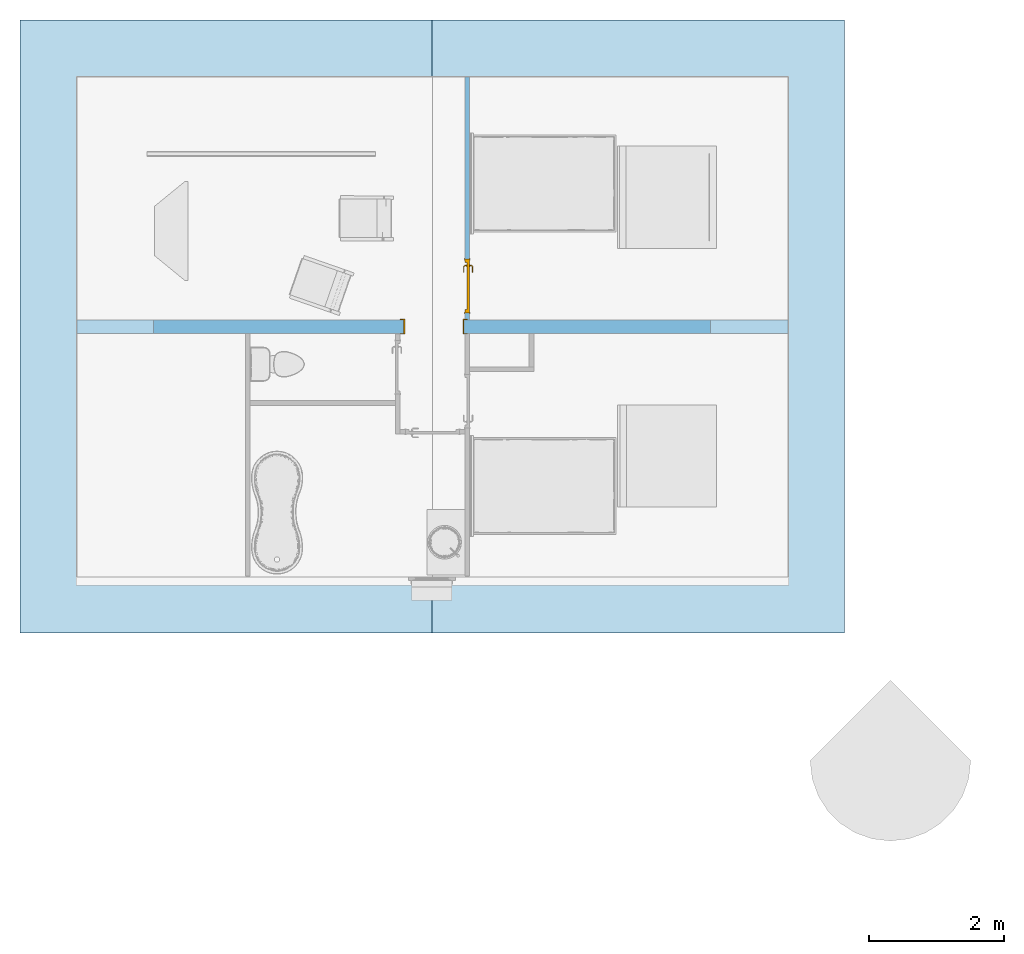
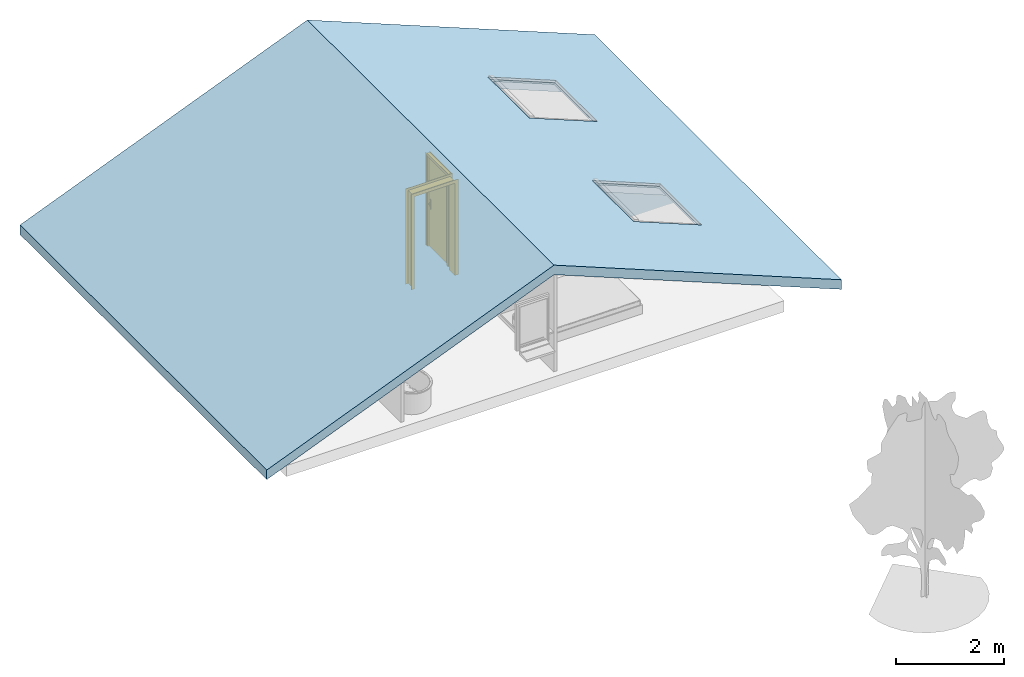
# One storey, part 3 of 6: 2 doors, 1 roof, 2 openings, plus 2 elements that do not belong to this part.
"""IFC2X3 building model written with IfcOpenShell, lengths in metres."""

from ifc_helpers import new_model, entity, si_unit, converted_unit, derived_unit, direction, frame, frame_2d, origin, place, context, subcontext, project, spatial, polyline, rectangle, extrude, clip, bounded_halfspace, faceted_brep, source, transform, mapped, material, material_list, layer, layer_set, layer_usage, type_object, type_shapes, element, fill, save


model = new_model("IFC2X3")

# Units and contexts
model_context = context("Model", 3, precision=1e-05, world=origin(), true_north=direction((6.12303176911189e-17, 1.0)))
body_context = subcontext(model_context, "Body", "Model", "MODEL_VIEW")
ifc_project = project(units=[si_unit("LENGTHUNIT", "METRE"), si_unit("AREAUNIT", "SQUARE_METRE"), si_unit("VOLUMEUNIT", "CUBIC_METRE"), converted_unit("PLANEANGLEUNIT", "DEGREE", entity("IfcRatioMeasure", 0.0174532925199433), si_unit("PLANEANGLEUNIT", "RADIAN"), dimensions=[0, 0, 0, 0, 0, 0, 0]), si_unit("MASSUNIT", "GRAM", prefix="KILO"), derived_unit("MASSDENSITYUNIT", [(si_unit("MASSUNIT", "GRAM", prefix="KILO"), 1), (si_unit("LENGTHUNIT", "METRE"), -3)]), derived_unit("MOMENTOFINERTIAUNIT", [(si_unit("LENGTHUNIT", "METRE"), 4)]), si_unit("TIMEUNIT", "SECOND"), si_unit("FREQUENCYUNIT", "HERTZ"), si_unit("THERMODYNAMICTEMPERATUREUNIT", "DEGREE_CELSIUS"), derived_unit("THERMALTRANSMITTANCEUNIT", [(si_unit("MASSUNIT", "GRAM", prefix="KILO"), 1), (si_unit("THERMODYNAMICTEMPERATUREUNIT", "KELVIN"), -1), (si_unit("TIMEUNIT", "SECOND"), -3)]), derived_unit("VOLUMETRICFLOWRATEUNIT", [(si_unit("LENGTHUNIT", "METRE"), 3), (si_unit("TIMEUNIT", "SECOND"), -1)]), si_unit("ELECTRICCURRENTUNIT", "AMPERE"), si_unit("ELECTRICVOLTAGEUNIT", "VOLT"), si_unit("POWERUNIT", "WATT"), si_unit("FORCEUNIT", "NEWTON", prefix="KILO"), si_unit("ILLUMINANCEUNIT", "LUX"), si_unit("LUMINOUSFLUXUNIT", "LUMEN"), si_unit("LUMINOUSINTENSITYUNIT", "CANDELA"), derived_unit("USERDEFINED", [(si_unit("MASSUNIT", "GRAM", prefix="KILO"), -1), (si_unit("LENGTHUNIT", "METRE"), -2), (si_unit("TIMEUNIT", "SECOND"), 3), (si_unit("LUMINOUSFLUXUNIT", "LUMEN"), 1)]), derived_unit("LINEARVELOCITYUNIT", [(si_unit("LENGTHUNIT", "METRE"), 1), (si_unit("TIMEUNIT", "SECOND"), -1)]), si_unit("PRESSUREUNIT", "PASCAL"), derived_unit("USERDEFINED", [(si_unit("LENGTHUNIT", "METRE"), -2), (si_unit("MASSUNIT", "GRAM", prefix="KILO"), 1), (si_unit("TIMEUNIT", "SECOND"), -2)]), derived_unit("LINEARFORCEUNIT", [(si_unit("MASSUNIT", "GRAM", prefix="KILO"), 1), (si_unit("LENGTHUNIT", "METRE"), 1), (si_unit("TIMEUNIT", "SECOND"), -2), (si_unit("LENGTHUNIT", "METRE"), -1)]), derived_unit("PLANARFORCEUNIT", [(si_unit("MASSUNIT", "GRAM", prefix="KILO"), 1), (si_unit("LENGTHUNIT", "METRE"), 1), (si_unit("TIMEUNIT", "SECOND"), -2), (si_unit("LENGTHUNIT", "METRE"), -2)])], contexts=[model_context])

# Site, building, storey
site_placement = place(None, origin())
site = spatial("IfcSite", under=ifc_project, at=site_placement, Name="Surface", CompositionType="ELEMENT")
building_placement = place(site_placement, origin())
building = spatial("IfcBuilding", under=site, at=building_placement, CompositionType="ELEMENT")
storey_placement = place(building_placement, frame((0.0, 0.0, 5.6)))
storey = spatial("IfcBuildingStorey", under=building, at=storey_placement, Name="Niveau comble", CompositionType="ELEMENT", Elevation=5.6)

# Wall, opening, door
ifc_material_1 = material(Name="Blocs béton manufacturés")
ifc_layer_1 = layer(ifc_material_1, 0.2)
ifc_layer_set_1 = layer_set([ifc_layer_1], Name="Mur de base:Parpaing 20")
ifc_layer_usage_1 = layer_usage(ifc_layer_set_1, "AXIS2", "NEGATIVE", 0.1)
wall_type_1 = type_object("IfcWallType", Name="Mur de base:Parpaing 20", PredefinedType="STANDARD", material=ifc_layer_set_1)
wall_1_placement = place(storey_placement, frame((12.4543960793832, 3.29925810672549, 0.0), z_axis=(0.0, 0.0, 1.0), x_axis=(-1.0, 0.0, 0.0)))
wall_1 = element("IfcWallStandardCase", 1, at=wall_1_placement, inside=storey, type_object=wall_type_1, material=ifc_layer_usage_1, Name="Mur de base:Parpaing 20", ObjectType="Mur de base:Parpaing 20", context=body_context, shape_type="Clipping", body=[
    clip(clip(extrude(rectangle(XDim=10.57, YDim=0.2, at=frame_2d((5.285, 1.38777878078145e-16), x_axis=(-1.0, 0.0))), origin(), (0.0, 0.0, 1.0), 2.8737205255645), bounded_halfspace(frame((0.0, -0.1, 0.736421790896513), z_axis=(-0.374606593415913, 0.0, 0.927183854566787), x_axis=(0.0, -1.0, 0.0)), False, frame((0.0, -0.1, 0.736421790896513)), polyline([(0.0, 0.0), (4.73500000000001, 0.0), (4.80500000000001, 0.0), (5.28999999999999, 0.0), (5.28999999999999, 0.199999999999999), (4.80629475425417, 0.200000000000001), (4.73629475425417, 0.200000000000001), (3.85, 0.2), (3.78, 0.200000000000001), (0.0, 0.2), (0.0, 0.0)]))), bounded_halfspace(frame((5.28999999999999, -0.0999999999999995, 2.8737205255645), z_axis=(0.374606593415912, 0.0, 0.927183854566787), x_axis=(0.0, 1.0, 0.0)), False, frame((5.28999999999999, -0.0999999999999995, 2.8737205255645)), polyline([(0.0, 0.0), (5.28000000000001, 0.0), (5.28000000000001, 0.2), (2.77500000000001, 0.199999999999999), (2.70500000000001, 0.199999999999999), (0.0, 0.2), (0.0, 0.0)]))),
])
opening_1_placement = place(wall_1_placement, frame((4.81499999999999, -0.0999999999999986, 0.0)))
opening_1 = element("IfcOpeningElement", 2, at=opening_1_placement, cuts=wall_1, Name="Ouverture en rectangle:Ouverture en rectangle:1", ObjectType="Opening", context=body_context, shape_type="SweptSolid", body=[
    extrude(rectangle(XDim=2.09999999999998, YDim=0.9, at=frame_2d((1.04999999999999, 0.45), x_axis=(1.0, 0.0))), frame((0.0, 0.0, 0.0), z_axis=(0.0, 1.0, 0.0), x_axis=(0.0, 0.0, 1.0)), (0.0, 0.0, 1.0), 0.2),
])
ifc_material_2 = material(Name="Bois - Chêne")
door_style_1 = type_object("IfcDoorStyle", Name="Ouverture en rectangle:Ouverture en rectangle", ConstructionType="NOTDEFINED", OperationType="NOTDEFINED", ParameterTakesPrecedence=False, Sizeable=False, material=ifc_material_2)
shared_shape_1 = source(origin(), body_context, "Body", "Brep", [
    faceted_brep([(0.0, 0.0, 0.0), (0.0, 0.20000000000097, 0.0), (-0.0499999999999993, 0.20000000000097, 0.0), (-0.0499999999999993, 0.21000000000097, 0.0), (0.0200000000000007, 0.21000000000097, 0.0), (0.0200000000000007, -0.00999999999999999, 0.0), (-0.0499999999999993, -0.00999999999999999, 0.0), (-0.0499999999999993, 0.0, 0.0), (0.0, 0.0, 2.09999999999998), (0.0, 0.20000000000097, 2.09999999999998), (0.9, 0.20000000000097, 2.09999999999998), (0.9, 0.20000000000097, 0.0), (0.95, 0.20000000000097, 0.0), (0.95, 0.20000000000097, 2.14999999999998), (-0.0499999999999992, 0.20000000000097, 2.14999999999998), (-0.0499999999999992, 0.21000000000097, 2.14999999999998), (0.95, 0.21000000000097, 2.14999999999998), (0.95, 0.21000000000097, 0.0), (0.88, 0.21000000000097, 0.0), (0.88, 0.21000000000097, 2.07999999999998), (0.0200000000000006, 0.21000000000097, 2.07999999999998), (0.0200000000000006, -0.00999999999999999, 2.07999999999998), (0.88, -0.00999999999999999, 2.07999999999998), (0.88, -0.00999999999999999, 0.0), (0.95, -0.00999999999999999, 0.0), (0.95, -0.00999999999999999, 2.14999999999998), (-0.0499999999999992, -0.00999999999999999, 2.14999999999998), (-0.0499999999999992, 0.0, 2.14999999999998), (0.95, 0.0, 2.14999999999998), (0.95, 0.0, 0.0), (0.9, 0.0, 0.0), (0.9, 0.0, 2.09999999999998)], [[[0, 1, 2, 3, 4, 5, 6, 7]], [[1, 0, 8, 9]], [[2, 1, 9, 10, 11, 12, 13, 14]], [[3, 2, 14, 15]], [[4, 3, 15, 16, 17, 18, 19, 20]], [[5, 4, 20, 21]], [[6, 5, 21, 22, 23, 24, 25, 26]], [[7, 6, 26, 27]], [[0, 7, 27, 28, 29, 30, 31, 8]], [[10, 31, 30, 11]], [[30, 29, 24, 23, 18, 17, 12, 11]], [[16, 13, 12, 17]], [[22, 19, 18, 23]], [[28, 25, 24, 29]], [[9, 8, 31, 10]], [[15, 14, 13, 16]], [[21, 20, 19, 22]], [[27, 26, 25, 28]]]),
])
type_shapes(door_style_1, [shared_shape_1])
door_1_placement = place(opening_1_placement, origin())
door_1 = element("IfcDoor", 3, at=door_1_placement, inside=storey, type_object=door_style_1, material=ifc_material_2, Name="Ouverture en rectangle:Ouverture en rectangle", ObjectType="Ouverture en rectangle:Ouverture en rectangle", OverallHeight=2.09999999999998, OverallWidth=0.900000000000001, context=body_context, shape_type="MappedRepresentation", body=[
    mapped(shared_shape_1, transform((0.0, 0.0, 0.0), scale=1.0)),
])
fill(opening_1, door_1)

ifc_material_3 = material(Name="Mur par défaut")
ifc_layer_2 = layer(ifc_material_3, 0.07)
ifc_layer_set_2 = layer_set([ifc_layer_2], Name="Mur de base:Générique - Int. 70 mm")
ifc_layer_usage_2 = layer_usage(ifc_layer_set_2, "AXIS2", "NEGATIVE", 0.035)
wall_type_2 = type_object("IfcWallType", Name="Mur de base:Générique - Int. 70 mm", PredefinedType="STANDARD", material=ifc_layer_set_2)
wall_2_placement = place(storey_placement, frame((7.6843960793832, 3.39925810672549, 0.0), z_axis=(0.0, 0.0, 1.0), x_axis=(0.0, 1.0, 0.0)))
wall_2 = element("IfcWallStandardCase", 4, at=wall_2_placement, inside=storey, type_object=wall_type_2, material=ifc_layer_usage_2, Name="Mur de base:Générique - Int. 70 mm", ObjectType="Mur de base:Générique - Int. 70 mm", context=body_context, shape_type="Clipping", body=[
    clip(extrude(rectangle(XDim=3.61, YDim=0.0699999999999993, at=frame_2d((1.805, -2.42861286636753e-17), x_axis=(-1.0, 0.0))), origin(), (0.0, 0.0, 1.0), 2.67776780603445), bounded_halfspace(frame((0.0, -0.0350000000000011, 2.64948597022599), z_axis=(0.0, -0.374606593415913, 0.927183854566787), x_axis=(1.0, 0.0, 0.0)), False, frame((0.0, -0.0350000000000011, 2.64948597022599)), polyline([(0.0, 0.0), (3.61, 0.0), (3.61, 0.0700000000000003), (0.0, 0.0700000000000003), (0.0, 0.0)]))),
])
opening_2_placement = place(wall_2_placement, frame((0.899999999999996, 0.0349999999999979, 0.0)))
opening_2 = element("IfcOpeningElement", 5, at=opening_2_placement, cuts=wall_2, Name="Int. Simple:PP (0.73m x 2.04m):1", ObjectType="Opening", context=body_context, shape_type="SweptSolid", body=[
    extrude(rectangle(XDim=2.075, YDim=0.799999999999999, at=frame_2d((1.0375, 0.4), x_axis=(1.0, 0.0))), frame((0.0, 0.0, 0.0), z_axis=(0.0, -1.0, 0.0), x_axis=(0.0, 0.0, 1.0)), (0.0, 0.0, 1.0), 0.07),
])
ifc_material_4 = material(Name="Finition Peinture - Blanc satiné")
ifc_material_5 = material(Name="Bois - Panneau de porte")
ifc_material_6 = material(Name="Bois - Cadre de porte")
ifc_material_list_1 = material_list([ifc_material_4, ifc_material_5, ifc_material_6])
ifc_material_list_2 = material_list([ifc_material_5, ifc_material_4, ifc_material_6])
door_style_2 = type_object("IfcDoorStyle", Name="Int. Simple:PP (0.73m x 2.04m)", ConstructionType="NOTDEFINED", OperationType="NOTDEFINED", ParameterTakesPrecedence=False, Sizeable=False, material=ifc_material_list_2)
shared_shape_2 = source(origin(), body_context, "Body", "Brep", [
    faceted_brep([(0.795000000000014, -0.00500000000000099, 0.870000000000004), (0.795000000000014, -0.00500000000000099, 1.08), (0.785352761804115, -0.00500000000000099, 1.08399601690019), (0.775000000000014, -0.00500000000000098, 1.08535898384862), (0.764647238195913, -0.00500000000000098, 1.08399601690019), (0.755000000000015, -0.00500000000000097, 1.08), (0.755000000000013, -0.00500000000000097, 0.870000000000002), (0.764647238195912, -0.00500000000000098, 0.866003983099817), (0.775000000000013, -0.00500000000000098, 0.86464101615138), (0.785352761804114, -0.00500000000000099, 0.866003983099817), (0.795000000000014, 0.0, 1.08), (0.795000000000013, 0.0, 0.870000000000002), (0.785352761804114, 0.0, 0.866003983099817), (0.775000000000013, 0.0, 0.86464101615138), (0.764647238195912, 0.0, 0.866003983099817), (0.755000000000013, 0.0, 0.870000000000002), (0.755000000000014, 0.0, 1.08), (0.764647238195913, 0.0, 1.08399601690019), (0.775000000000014, 0.0, 1.08535898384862), (0.785352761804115, 0.0, 1.08399601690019)], [[[0, 1, 2, 3, 4, 5, 6, 7, 8, 9]], [[10, 11, 12, 13, 14, 15, 16, 17, 18, 19]], [[9, 12, 11, 0]], [[8, 13, 12, 9]], [[7, 14, 13, 8]], [[7, 6, 15, 14]], [[15, 6, 5, 16]], [[4, 17, 16, 5]], [[3, 18, 17, 4]], [[2, 19, 18, 3]], [[2, 1, 10, 19]], [[11, 10, 1, 0]]]),
    faceted_brep([(0.795000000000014, 0.039999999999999, 0.870000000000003), (0.795000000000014, 0.039999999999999, 1.08), (0.785352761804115, 0.039999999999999, 1.08399601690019), (0.775000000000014, 0.039999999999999, 1.08535898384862), (0.764647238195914, 0.039999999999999, 1.08399601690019), (0.755000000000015, 0.039999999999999, 1.08), (0.755000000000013, 0.039999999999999, 0.870000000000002), (0.764647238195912, 0.039999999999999, 0.866003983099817), (0.775000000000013, 0.039999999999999, 0.86464101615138), (0.785352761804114, 0.039999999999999, 0.866003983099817), (0.775000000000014, 0.044999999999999, 1.08535898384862), (0.785352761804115, 0.044999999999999, 1.08399601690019), (0.795000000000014, 0.044999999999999, 1.08), (0.795000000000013, 0.044999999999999, 0.870000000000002), (0.785352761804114, 0.044999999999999, 0.866003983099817), (0.775000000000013, 0.044999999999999, 0.86464101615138), (0.764647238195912, 0.044999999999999, 0.866003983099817), (0.755000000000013, 0.044999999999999, 0.870000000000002), (0.755000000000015, 0.044999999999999, 1.08), (0.764647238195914, 0.044999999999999, 1.08399601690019)], [[[0, 1, 2, 3, 4, 5, 6, 7, 8, 9]], [[10, 11, 12, 13, 14, 15, 16, 17, 18, 19]], [[4, 19, 18, 5]], [[3, 10, 19, 4]], [[2, 11, 10, 3]], [[2, 1, 12, 11]], [[13, 12, 1, 0]], [[9, 14, 13, 0]], [[8, 15, 14, 9]], [[7, 16, 15, 8]], [[7, 6, 17, 16]], [[17, 6, 5, 18]]]),
    faceted_brep([(0.772974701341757, -0.00500000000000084, 1.00778044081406), (0.777025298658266, -0.00500000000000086, 1.00778044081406), (0.781000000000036, -0.00500000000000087, 1.00699999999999), (0.781000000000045, -0.00500000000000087, 0.992999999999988), (0.777025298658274, -0.00500000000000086, 0.99221955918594), (0.772974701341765, -0.00500000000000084, 0.992219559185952), (0.768999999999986, -0.00500000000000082, 0.993000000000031), (0.768999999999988, -0.00500000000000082, 1.007), (0.777025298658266, -0.0310045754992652, 1.00778044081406), (0.781000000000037, -0.0326509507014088, 1.007), (0.772974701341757, -0.0293267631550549, 1.00778044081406), (0.759298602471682, -0.0430028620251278, 1.00778044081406), (0.760976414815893, -0.047053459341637, 1.00778044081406), (0.768999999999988, -0.0276803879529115, 1.007), (0.768999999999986, -0.0276803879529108, 0.993000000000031), (0.772974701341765, -0.0293267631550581, 0.992219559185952), (0.777025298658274, -0.0310045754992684, 0.99221955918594), (0.760976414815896, -0.0470534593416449, 0.99221955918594), (0.759298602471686, -0.0430028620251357, 0.992219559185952), (0.781000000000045, -0.0326509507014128, 0.992999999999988), (0.762622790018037, -0.051028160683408, 1.007), (0.757652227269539, -0.0390281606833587, 1.007), (0.757652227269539, -0.0390281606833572, 0.993000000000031), (0.76262279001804, -0.0510281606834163, 0.992999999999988), (0.674981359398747, -0.0510281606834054, 1.007), (0.674981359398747, -0.0470534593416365, 1.00778044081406), (0.674981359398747, -0.0430028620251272, 1.00778044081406), (0.674981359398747, -0.0390281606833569, 1.00699999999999), (0.674981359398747, -0.0390281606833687, 0.993000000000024), (0.674981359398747, -0.0430028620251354, 0.992219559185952), (0.674981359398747, -0.0470534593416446, 0.99221955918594), (0.674981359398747, -0.0510281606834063, 0.992999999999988), (0.71713998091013, -0.0450281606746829, 1.0078786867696), (0.722692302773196, -0.0510281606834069, 1.007), (0.716316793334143, -0.0390281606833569, 1.007), (0.716316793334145, -0.0390281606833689, 0.993000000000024), (0.717139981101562, -0.0450281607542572, 0.992121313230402), (0.722692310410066, -0.0510281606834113, 0.992999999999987)], [[[0, 1, 2, 3, 4, 5, 6, 7]], [[2, 1, 8, 9]], [[1, 0, 10, 11, 12, 8]], [[0, 7, 13, 10]], [[14, 13, 7, 6]], [[5, 15, 14, 6]], [[5, 4, 16, 17, 18, 15]], [[3, 19, 16, 4]], [[9, 19, 3, 2]], [[9, 8, 12, 20]], [[10, 13, 21, 11]], [[22, 21, 13, 14]], [[14, 15, 18, 22]], [[16, 19, 23, 17]], [[20, 23, 19, 9]], [[24, 25, 26, 27, 28, 29, 30, 31]], [[32, 25, 33]], [[33, 25, 24]], [[33, 20, 12]], [[11, 34, 32]], [[34, 11, 21]], [[27, 26, 34]], [[32, 26, 25]], [[32, 34, 26]], [[32, 33, 12]], [[11, 32, 12]], [[21, 22, 35, 28, 27, 34]], [[36, 29, 35]], [[30, 36, 37]], [[18, 35, 22]], [[29, 28, 35]], [[30, 37, 31]], [[37, 17, 23]], [[36, 17, 37]], [[36, 18, 17]], [[36, 35, 18]], [[29, 36, 30]], [[23, 20, 33, 24, 31, 37]]]),
    faceted_brep([(0.772974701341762, 0.0449999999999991, 0.992219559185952), (0.777025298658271, 0.0449999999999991, 0.99221955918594), (0.781000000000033, 0.0449999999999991, 0.992999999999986), (0.781000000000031, 0.0449999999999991, 1.007), (0.777025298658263, 0.0449999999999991, 1.00778044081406), (0.772974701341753, 0.0449999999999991, 1.00778044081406), (0.768999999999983, 0.0449999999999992, 1.007), (0.768999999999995, 0.0449999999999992, 0.993000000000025), (0.768999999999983, 0.0674852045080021, 1.007), (0.768999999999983, 0.0674852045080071, 0.993000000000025), (0.772974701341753, 0.0691315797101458, 1.00778044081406), (0.777025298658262, 0.070809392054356, 1.00778044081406), (0.760838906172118, 0.0869957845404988, 1.00778044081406), (0.759161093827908, 0.0829451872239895, 1.00778044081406), (0.781000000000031, 0.0724557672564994, 1.007), (0.781000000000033, 0.0724557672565, 0.992999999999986), (0.777025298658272, 0.0708093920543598, 0.99221955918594), (0.772974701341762, 0.0691315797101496, 0.992219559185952), (0.759161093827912, 0.0829451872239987, 0.992219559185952), (0.760838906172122, 0.0869957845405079, 0.99221955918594), (0.757514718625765, 0.0789704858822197, 1.007), (0.757514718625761, 0.0789704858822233, 0.993000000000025), (0.762485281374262, 0.0909704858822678, 1.007), (0.762485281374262, 0.0909704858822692, 0.992999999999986), (0.674954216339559, 0.0829451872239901, 1.00778044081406), (0.674954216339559, 0.0869957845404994, 1.00778044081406), (0.674954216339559, 0.0909704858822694, 1.007), (0.674954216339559, 0.0909704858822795, 0.992999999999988), (0.674954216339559, 0.0869957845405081, 0.99221955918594), (0.674954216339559, 0.0829451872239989, 0.992219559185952), (0.674954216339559, 0.07897048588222, 0.993000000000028), (0.674954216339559, 0.0789704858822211, 1.007), (0.716234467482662, 0.0789704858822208, 1.007), (0.716234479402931, 0.0789704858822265, 0.993000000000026), (0.717057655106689, 0.0849704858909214, 1.0078786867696), (0.722554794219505, 0.0909704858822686, 1.007), (0.722554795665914, 0.0909704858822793, 0.992999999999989), (0.717057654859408, 0.0849704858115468, 0.992121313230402)], [[[0, 1, 2, 3, 4, 5, 6, 7]], [[8, 9, 7, 6]], [[5, 10, 8, 6]], [[5, 4, 11, 12, 13, 10]], [[3, 14, 11, 4]], [[14, 3, 2, 15]], [[2, 1, 16, 15]], [[1, 0, 17, 18, 19, 16]], [[0, 7, 9, 17]], [[20, 21, 9, 8]], [[8, 10, 13, 20]], [[14, 22, 12, 11]], [[23, 22, 14, 15]], [[15, 16, 19, 23]], [[17, 9, 21, 18]], [[24, 25, 26, 27, 28, 29, 30, 31]], [[21, 20, 32, 31, 30, 33]], [[34, 24, 32]], [[25, 34, 35]], [[13, 32, 20]], [[24, 31, 32]], [[25, 35, 26]], [[35, 12, 22]], [[34, 12, 35]], [[34, 13, 12]], [[34, 32, 13]], [[24, 34, 25]], [[22, 23, 36, 27, 26, 35]], [[37, 28, 36]], [[36, 28, 27]], [[36, 23, 19]], [[18, 33, 37]], [[33, 18, 21]], [[30, 29, 33]], [[37, 29, 28]], [[37, 33, 29]], [[37, 36, 19]], [[18, 37, 19]]]),
    faceted_brep([(0.835000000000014, 0.0400000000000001, 2.04), (0.835000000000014, 0.0400000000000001, 0.0), (0.105000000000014, 0.0400000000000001, 0.0), (0.105000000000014, 0.0400000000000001, 2.04), (0.835000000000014, 0.0, 2.04), (0.105000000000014, 0.0, 2.04), (0.105000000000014, 0.0, 0.0), (0.835000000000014, 0.0, 0.0)], [[[0, 1, 2, 3]], [[4, 5, 6, 7]], [[3, 5, 4, 0]], [[2, 6, 5, 3]], [[1, 7, 6, 2]], [[0, 4, 7, 1]]]),
    faceted_brep([(0.870000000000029, 0.0, 0.0), (0.835000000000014, 0.0, 0.0), (0.835000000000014, 0.04, 0.0), (0.820000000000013, 0.04, 0.0), (0.820000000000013, 0.0699999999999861, 0.0), (0.870000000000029, 0.0699999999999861, 0.0), (0.870000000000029, 0.0699999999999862, 2.07500000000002), (0.870000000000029, 0.0, 2.07500000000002), (0.820000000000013, 0.0699999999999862, 2.025), (0.120000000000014, 0.0699999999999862, 2.025), (0.120000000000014, 0.0699999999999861, 0.0), (0.0699999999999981, 0.0699999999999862, 0.0), (0.0699999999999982, 0.0699999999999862, 2.07500000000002), (0.820000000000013, 0.04, 2.025), (0.835000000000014, 0.04, 2.04), (0.105000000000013, 0.04, 2.04), (0.105000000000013, 0.04, 0.0), (0.120000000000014, 0.04, 0.0), (0.120000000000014, 0.04, 2.025), (0.835000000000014, 0.0, 2.04), (0.0699999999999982, 0.0, 2.07500000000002), (0.0699999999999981, 0.0, 0.0), (0.105000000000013, 0.0, 0.0), (0.105000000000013, 0.0, 2.04)], [[[0, 1, 2, 3, 4, 5]], [[5, 6, 7, 0]], [[4, 8, 9, 10, 11, 12, 6, 5]], [[3, 13, 8, 4]], [[2, 14, 15, 16, 17, 18, 13, 3]], [[1, 19, 14, 2]], [[0, 7, 20, 21, 22, 23, 19, 1]], [[12, 11, 21, 20]], [[21, 11, 10, 17, 16, 22]], [[18, 17, 10, 9]], [[23, 22, 16, 15]], [[6, 12, 20, 7]], [[13, 18, 9, 8]], [[19, 23, 15, 14]]]),
    faceted_brep([(0.855000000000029, 0.0699999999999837, 0.0), (0.855000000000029, 0.0749999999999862, 0.0), (0.885000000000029, 0.0749999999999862, 0.0), (0.885000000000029, 0.0699999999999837, 0.0), (0.885000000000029, 0.0699999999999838, 2.09000000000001), (0.0550000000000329, 0.0699999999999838, 2.09000000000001), (0.055000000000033, 0.0699999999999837, 0.0), (0.0850000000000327, 0.0699999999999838, 0.0), (0.0850000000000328, 0.0699999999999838, 2.06000000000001), (0.855000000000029, 0.0699999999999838, 2.06000000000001), (0.885000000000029, 0.0749999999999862, 2.09000000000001), (0.855000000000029, 0.0749999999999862, 2.06000000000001), (0.0850000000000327, 0.0749999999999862, 2.06000000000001), (0.0850000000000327, 0.0749999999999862, 0.0), (0.055000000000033, 0.0749999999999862, 0.0), (0.0550000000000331, 0.0749999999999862, 2.09000000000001)], [[[0, 1, 2, 3]], [[3, 4, 5, 6, 7, 8, 9, 0]], [[2, 10, 4, 3]], [[1, 11, 12, 13, 14, 15, 10, 2]], [[0, 9, 11, 1]], [[7, 6, 14, 13]], [[8, 7, 13, 12]], [[15, 14, 6, 5]], [[10, 15, 5, 4]], [[9, 8, 12, 11]]]),
    faceted_brep([(0.885000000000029, -0.005, 0.0), (0.885000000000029, -0.005, 2.09000000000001), (0.0550000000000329, -0.005, 2.09000000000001), (0.055000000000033, -0.005, 0.0), (0.0850000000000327, -0.005, 0.0), (0.0850000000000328, -0.005, 2.06000000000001), (0.855000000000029, -0.005, 2.06000000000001), (0.855000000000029, -0.005, 0.0), (0.885000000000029, 0.0, 0.0), (0.885000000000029, 0.0, 2.09000000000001), (0.855000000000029, 0.0, 0.0), (0.855000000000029, 0.0, 2.06000000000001), (0.0850000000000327, 0.0, 2.06000000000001), (0.0850000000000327, 0.0, 0.0), (0.055000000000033, 0.0, 0.0), (0.0550000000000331, 0.0, 2.09000000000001)], [[[0, 1, 2, 3, 4, 5, 6, 7]], [[8, 9, 1, 0]], [[10, 11, 12, 13, 14, 15, 9, 8]], [[7, 6, 11, 10]], [[5, 4, 13, 12]], [[15, 14, 3, 2]], [[9, 15, 2, 1]], [[6, 5, 12, 11]], [[4, 3, 14, 13]], [[7, 10, 8, 0]]]),
])
type_shapes(door_style_2, [shared_shape_2])
door_2_placement = place(opening_2_placement, frame((-0.870000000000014, -0.0699999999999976, 0.0)))
door_2 = element("IfcDoor", 6, at=door_2_placement, inside=storey, type_object=door_style_2, material=ifc_material_list_1, Name="Int. Simple:PP (0.73m x 2.04m)", ObjectType="Int. Simple:PP (0.73m x 2.04m)", OverallHeight=2.075, OverallWidth=0.799999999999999, context=body_context, shape_type="MappedRepresentation", body=[
    mapped(shared_shape_2, transform((0.0, 0.0, 0.0), scale=1.0)),
])
fill(opening_2, door_2)

# Roof
ifc_material_7 = material(Name="Toit par défaut")
ifc_layer_3 = layer(ifc_material_7, 0.2)
ifc_layer_set_3 = layer_set([ifc_layer_3], Name="Toit de base:Toit - 200 mm")
roof_placement = place(storey_placement, frame((1.03939607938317, -1.25574189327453, 0.399059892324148)))
element("IfcRoof", 7, at=roof_placement, inside=storey, material=ifc_layer_set_3, Name="Toit de base:Toit - 200 mm", ObjectType="Toit de base:Toit - 200 mm", ShapeType="NOTDEFINED", context=body_context, shape_type="Brep", body=[
    faceted_brep([(6.12500000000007, 9.11000000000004, 2.47466063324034), (12.2500000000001, 9.11000000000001, 0.0), (12.25, 0.0, 0.0), (6.12500000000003, 0.0, 2.47466063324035), (8.83639075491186, 1.93000000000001, 1.37918765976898), (10.4556340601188, 1.93, 0.724970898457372), (10.4556340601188, 3.33, 0.724970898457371), (8.83639075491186, 3.33000000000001, 1.37918765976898), (8.8314854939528, 5.77499999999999, 1.38116951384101), (10.4507287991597, 5.77499999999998, 0.726952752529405), (10.4507287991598, 7.17499999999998, 0.726952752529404), (8.8314854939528, 7.17499999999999, 1.38116951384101), (0.0, 0.0, 0.0), (0.0, 9.11000000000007, 0.0), (12.2500000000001, 9.11000000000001, 0.215706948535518), (6.12500000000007, 9.11000000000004, 2.69036758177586), (6.12500000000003, 0.0, 2.69036758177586), (12.25, 0.0, 0.215706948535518), (8.89889016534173, 1.87000000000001, 1.56964320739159), (8.89889016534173, 3.39000000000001, 1.56964320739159), (10.3452969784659, 3.39, 0.98525692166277), (10.3452969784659, 1.87, 0.98525692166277), (8.89398490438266, 5.71499999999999, 1.57162506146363), (8.89398490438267, 7.23499999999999, 1.57162506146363), (10.3403917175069, 7.23499999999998, 0.987238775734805), (10.3403917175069, 5.71499999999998, 0.987238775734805), (0.0, 9.11000000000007, 0.215706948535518), (0.0, 0.0, 0.215706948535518), (8.97287822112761, 1.93000000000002, 1.48582335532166), (10.2709356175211, 1.93000000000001, 0.961374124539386), (10.2709356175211, 3.33000000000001, 0.961374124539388), (8.97287822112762, 3.33000000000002, 1.48582335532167), (8.88015983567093, 1.87000000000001, 1.52328401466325), (10.3265666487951, 1.87, 0.938897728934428), (10.3265666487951, 3.39, 0.938897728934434), (8.88015983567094, 3.39000000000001, 1.52328401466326), (8.96797296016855, 5.775, 1.4878052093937), (10.266030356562, 5.77499999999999, 0.963355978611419), (10.2660303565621, 7.17499999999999, 0.963355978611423), (8.96797296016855, 7.175, 1.4878052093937), (8.87525457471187, 5.71499999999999, 1.52526586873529), (10.3216613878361, 5.71499999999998, 0.940879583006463), (10.3216613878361, 7.23499999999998, 0.940879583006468), (8.87525457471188, 7.23499999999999, 1.52526586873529)], [[[0, 1, 2, 3], [4, 5, 6, 7], [8, 9, 10, 11]], [[12, 13, 0, 3]], [[14, 15, 16, 17], [18, 19, 20, 21], [22, 23, 24, 25]], [[26, 27, 16, 15]], [[12, 27, 26, 13]], [[1, 14, 17, 2]], [[26, 15, 14, 1, 0, 13]], [[17, 16, 27, 12, 3, 2]], [[4, 28, 29, 5]], [[6, 30, 31, 7]], [[29, 28, 31, 30], [32, 33, 34, 35]], [[32, 35, 19, 18]], [[35, 34, 20, 19]], [[34, 33, 21, 20]], [[33, 32, 18, 21]], [[7, 31, 28, 4]], [[30, 6, 5, 29]], [[8, 36, 37, 9]], [[10, 38, 39, 11]], [[37, 36, 39, 38], [40, 41, 42, 43]], [[40, 43, 23, 22]], [[43, 42, 24, 23]], [[42, 41, 25, 24]], [[41, 40, 22, 25]], [[11, 39, 36, 8]], [[38, 10, 9, 37]]], outer=[[True, False, False], [True], [True, False, False], [True], [True], [True], [True], [True], [True], [True], [False, True], [True], [True], [True], [True], [True], [True], [True], [True], [False, True], [True], [True], [True], [True], [True], [True]]),
])

save(model, "model.ifc")
